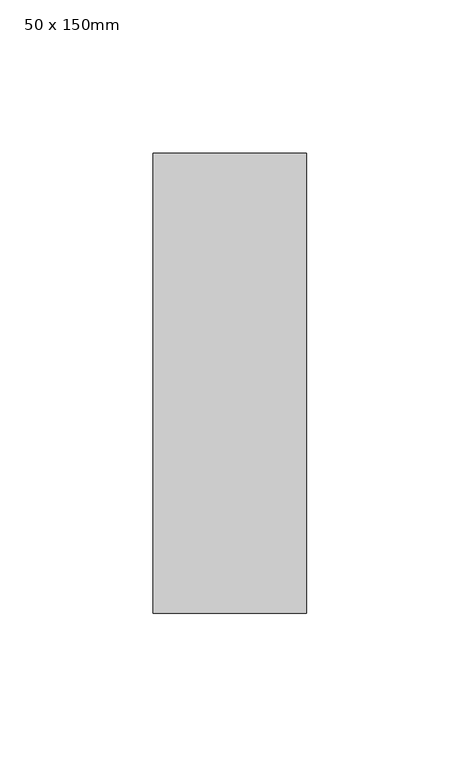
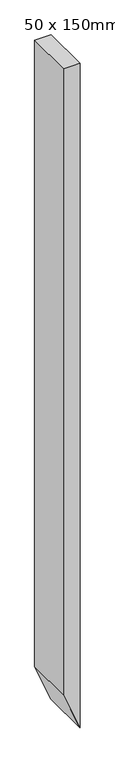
"""IFC4 building model written with IfcOpenShell, lengths in millimetres: member geometry, Prostokątny szpros : 50 x 150mm."""

from ifc_helpers import new_model, si_unit, frame, origin, place, context, project, spatial, polyline, outline, extrude, source, transform, mapped, element, save


def member_50_x_150mm_8ae61b32(model_context):
    return source(origin(), model_context, "Body", "SweptSolid", [
        extrude(outline(polyline([(0.0, 0.0), (0.0, -50.0), (-2000.7359314, -50.0), (-2121.4466096, 0.0), (0.0, 0.0)])), frame((0.0, -75.0, 0.0), z_axis=(0.0, 1.0, 0.0), x_axis=(0.0, 0.0, 1.0)), (0.0, 0.0, 1.0), 150.0),
    ])


if __name__ == "__main__":
    model = new_model("IFC4")
    model_context = context("Model", 3, world=origin())
    ifc_project = project(units=[si_unit("LENGTHUNIT", "METRE", prefix="MILLI")], contexts=[model_context])
    site = spatial("IfcSite", under=ifc_project)
    building = spatial("IfcBuilding", under=site)
    placement = place(None, origin())
    member_50_x_150mm_shape = member_50_x_150mm_8ae61b32(model_context)
    element("IfcMember", 1, ObjectType="Prostokątny szpros : 50 x 150mm", at=placement, inside=building, context=model_context, shape_type="MappedRepresentation", body=[
        mapped(member_50_x_150mm_shape, transform((0.0, 0.0, 0.0), x_axis=(1.0, 0.0, 0.0), y_axis=(0.0, 1.0, 0.0), z_axis=(0.0, 0.0, 1.0))),
    ])
    save(model, "model.ifc")
